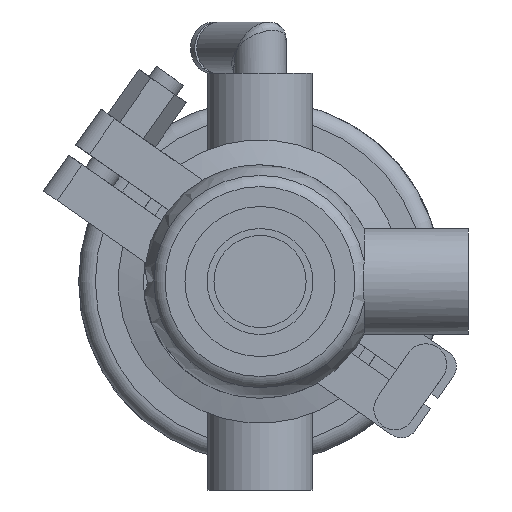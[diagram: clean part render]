
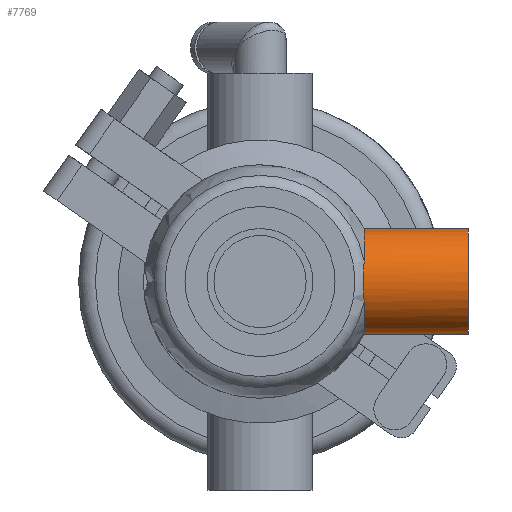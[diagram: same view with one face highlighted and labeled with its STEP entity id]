
A CAD part, front view. The second image highlights one B-rep face of the part: STEP entity #7769.
In plain terms, the highlighted cylindrical face has radius 12.7 mm (diameter 25.4 mm), a full revolution.
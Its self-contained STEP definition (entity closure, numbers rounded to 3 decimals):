
#741 = CARTESIAN_POINT ( 'NONE',  ( 24.802, -12.679, 0.85 ) ) ;
#793 = FACE_OUTER_BOUND ( 'NONE', #13144, .T. ) ;
#932 = CARTESIAN_POINT ( 'NONE',  ( 24.829, -12.593, 1.697 ) ) ;
#1186 = CARTESIAN_POINT ( 'NONE',  ( 50., 0., 0. ) ) ;
#1430 = CYLINDRICAL_SURFACE ( 'NONE', #19236, 12.7 ) ;
#1785 = CIRCLE ( 'NONE', #13654, 12.7 ) ;
#2095 = CARTESIAN_POINT ( 'NONE',  ( 24.828, -12.616, -1.683 ) ) ;
#2232 = EDGE_CURVE ( 'NONE', #12759, #2823, #9651, .T. ) ;
#2446 = EDGE_CURVE ( 'NONE', #2823, #12759, #3278, .T. ) ;
#2805 = CARTESIAN_POINT ( 'NONE',  ( 24.954, -11.696, -4.949 ) ) ;
#2823 = VERTEX_POINT ( 'NONE', #19478 ) ;
#3278 = B_SPLINE_CURVE_WITH_KNOTS ( 'NONE', 3,
 ( #8327, #4533, #8818, #16488, #932, #741, #14732, #10067, #2095, #5314, #16402, #3851, #6956, #14827 ),
 .UNSPECIFIED., .F., .F.,
 ( 4, 2, 2, 2, 2, 2, 4 ),
 ( 0., 0.003, 0.004, 0.005, 0.008, 0.009, 0.01 ),
 .UNSPECIFIED. ) ;
#3851 = CARTESIAN_POINT ( 'NONE',  ( 24.943, -12.008, -4.155 ) ) ;
#4079 = ORIENTED_EDGE ( 'NONE', *, *, #2446, .T. ) ;
#4533 = CARTESIAN_POINT ( 'NONE',  ( 24.954, -12.029, 4.161 ) ) ;
#5314 = CARTESIAN_POINT ( 'NONE',  ( 24.889, -12.365, -2.928 ) ) ;
#6197 = DIRECTION ( 'NONE',  ( 0., 0., 1. ) ) ;
#6956 = CARTESIAN_POINT ( 'NONE',  ( 24.954, -11.863, -4.555 ) ) ;
#7511 = DIRECTION ( 'NONE',  ( -1., 0., 0. ) ) ;
#7538 = ORIENTED_EDGE ( 'NONE', *, *, #2232, .T. ) ;
#7544 = DIRECTION ( 'NONE',  ( 1., 0., 0. ) ) ;
#7769 = ADVANCED_FACE ( 'NONE', ( #793, #9292 ), #1430, .T. ) ;
#8327 = CARTESIAN_POINT ( 'NONE',  ( 24.954, -11.696, 4.949 ) ) ;
#8818 = CARTESIAN_POINT ( 'NONE',  ( 24.91, -12.278, 3.354 ) ) ;
#9169 = EDGE_CURVE ( 'NONE', #9298, #9298, #1785, .T. ) ;
#9292 = FACE_OUTER_BOUND ( 'NONE', #18707, .T. ) ;
#9298 = VERTEX_POINT ( 'NONE', #18288 ) ;
#9651 = CIRCLE ( 'NONE', #15275, 12.7 ) ;
#10067 = CARTESIAN_POINT ( 'NONE',  ( 24.794, -12.7, -0.846 ) ) ;
#10866 = DIRECTION ( 'NONE',  ( 0., 0., 1. ) ) ;
#12750 = ORIENTED_EDGE ( 'NONE', *, *, #9169, .T. ) ;
#12759 = VERTEX_POINT ( 'NONE', #2805 ) ;
#13144 = EDGE_LOOP ( 'NONE', ( #7538, #4079 ) ) ;
#13654 = AXIS2_PLACEMENT_3D ( 'NONE', #1186, #7511, #13816 ) ;
#13816 = DIRECTION ( 'NONE',  ( 0., 0., 1. ) ) ;
#14165 = CARTESIAN_POINT ( 'NONE',  ( 0., 0., 0. ) ) ;
#14732 = CARTESIAN_POINT ( 'NONE',  ( 24.794, -12.7, 0.422 ) ) ;
#14827 = CARTESIAN_POINT ( 'NONE',  ( 24.954, -11.696, -4.949 ) ) ;
#15275 = AXIS2_PLACEMENT_3D ( 'NONE', #20412, #7544, #10866 ) ;
#16402 = CARTESIAN_POINT ( 'NONE',  ( 24.91, -12.26, -3.342 ) ) ;
#16488 = CARTESIAN_POINT ( 'NONE',  ( 24.849, -12.53, 2.115 ) ) ;
#18288 = CARTESIAN_POINT ( 'NONE',  ( 50., 0., 12.7 ) ) ;
#18707 = EDGE_LOOP ( 'NONE', ( #12750 ) ) ;
#19236 = AXIS2_PLACEMENT_3D ( 'NONE', #14165, #20296, #6197 ) ;
#19478 = CARTESIAN_POINT ( 'NONE',  ( 24.954, -11.696, 4.949 ) ) ;
#20296 = DIRECTION ( 'NONE',  ( -1., 0., 0. ) ) ;
#20412 = CARTESIAN_POINT ( 'NONE',  ( 24.954, 0., 0. ) ) ;
